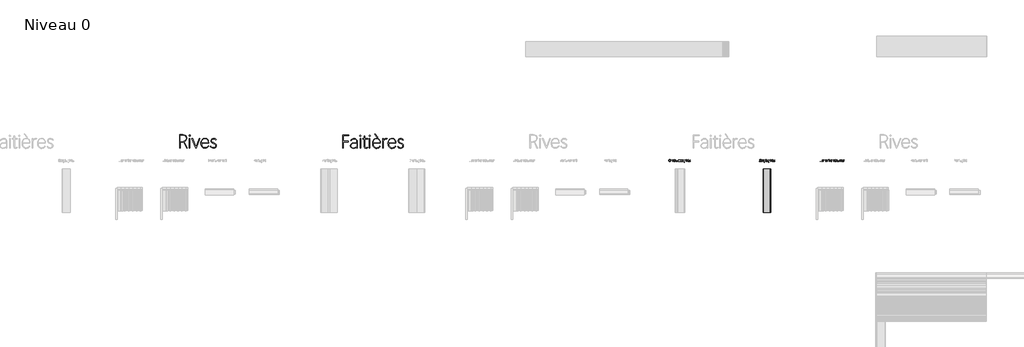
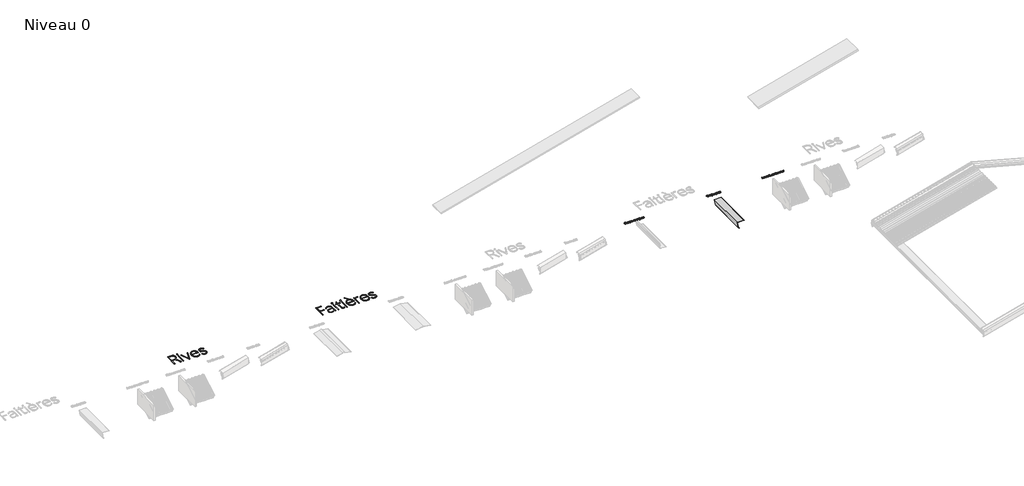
# One storey, part 20 of 26: 6 proxies.
"""IFC4 building model written with IfcOpenShell, lengths in millimetres."""

from ifc_helpers import new_model, si_unit, origin, origin_with_axes, place, context, project, spatial, polyline, outline, extrude, transform, mapped, element, save
from components import generic_models_2b05da81

model = new_model("IFC4")

# Units and contexts
model_context = context("Model", 3, world=origin())
ifc_project = project(units=[si_unit("LENGTHUNIT", "METRE", prefix="MILLI")], contexts=[model_context])

# Site, building, storey
site = spatial("IfcSite", under=ifc_project)
building = spatial("IfcBuilding", under=site)
storey = spatial("IfcBuildingStorey", under=building, Name="Niveau 0", Elevation=0.0)

# Proxies
placement = place(None, origin())
generic_models_shape = generic_models_2b05da81(model_context)
element("IfcBuildingElementProxy", 1, Name="Faitiere simple plate : Faitiere simple plate", ObjectType="Faitiere simple plate : Faitiere simple plate", at=placement, inside=storey, context=model_context, shape_type="MappedRepresentation", body=[
    mapped(generic_models_shape, transform((29964.6881645, -8404.4337097, 0.0), x_axis=(0.0, -1.0, 0.0), y_axis=(1.0, 0.0, 0.0), z_axis=(0.0, 0.0, 1.0))),
])
element("IfcBuildingElementProxy", 2, Name="0.5mm", ObjectType="0.5mm", at=placement, inside=storey, context=model_context, shape_type="SweptSolid", body=[
    extrude(outline(polyline([(29869.6233254, -8231.5532262), (29871.6912741, -8230.4076719), (29876.5859153, -8236.1056888), (29883.6080145, -8237.9356002), (29892.0434599, -8234.9006251), (29895.3908589, -8226.747849), (29892.9212223, -8219.212482), (29884.5899182, -8214.4294208), (29874.8601452, -8209.0587051), (29871.8251701, -8201.0844568), (29875.484993, -8192.0316023), (29885.0362381, -8188.4238501), (29892.7352557, -8190.5141148), (29897.5927035, -8195.9220238), (29895.5396322, -8197.0378234), (29891.4037348, -8192.3217102), (29885.0064834, -8190.5810627), (29877.3223431, -8193.3556846), (29874.1311561, -8200.8761742), (29876.7272499, -8207.6007269), (29885.2445207, -8212.2424534), (29894.855275, -8217.8512064), (29897.7265995, -8226.5395664), (29893.7394754, -8236.3139714), (29883.6080145, -8240.0928129), (29875.3139037, -8237.8984069), (29869.6233254, -8231.5532262)])), origin_with_axes(), (0.0, 0.0, 1.0), 10.0),
    extrude(outline(polyline([(29908.5126629, -8194.8359788), (29906.868718, -8194.211131), (29906.2066769, -8192.5746248), (29906.868718, -8190.93068), (29908.5126629, -8190.2983935), (29910.193801, -8190.93068), (29910.8037715, -8192.5746248), (29910.193801, -8194.211131), (29908.5126629, -8194.8359788)])), origin_with_axes(), (0.0, 0.0, 1.0), 10.0),
    extrude(outline(polyline([(29909.6284625, -8239.2596825), (29907.4563725, -8239.2596825), (29907.4563725, -8203.5540934), (29909.6284625, -8203.5540934), (29909.6284625, -8239.2596825)])), origin_with_axes(), (0.0, 0.0, 1.0), 10.0),
    extrude(outline(polyline([(29968.6021938, -8239.2596825), (29966.4747358, -8239.2596825), (29966.4747358, -8217.018076), (29963.9976605, -8207.7420615), (29957.1317733, -8204.7442797), (29949.447633, -8208.262768), (29946.3605873, -8217.2263586), (29946.3605873, -8239.2596825), (29944.2033746, -8239.2596825), (29944.2033746, -8216.839548), (29941.9197046, -8207.9131508), (29935.128204, -8204.7442797), (29927.1613945, -8208.1214334), (29924.0743487, -8216.973444), (29924.0743487, -8239.2596825), (29921.9171361, -8239.2596825), (29921.9171361, -8203.5540934), (29924.0743487, -8203.5540934), (29924.0743487, -8209.371129), (29928.8053393, -8204.3723465), (29935.306732, -8202.676331), (29942.1577419, -8205.0120716), (29945.6315981, -8211.2307951), (29950.2286927, -8204.9302463), (29957.1615279, -8202.676331), (29965.6564827, -8206.2915219), (29968.6021938, -8216.839548), (29968.6021938, -8239.2596825)])), origin_with_axes(), (0.0, 0.0, 1.0), 10.0),
    extrude(outline(polyline([(29981.3074325, -8233.1897323), (29981.2032912, -8255.6842534), (29979.0460786, -8255.6842534), (29979.0460786, -8203.5540934), (29981.2032912, -8203.5540934), (29981.2032912, -8211.6771149), (29986.4252336, -8205.1905996), (29994.8755564, -8202.676331), (30005.6021104, -8207.5784109), (30009.5594799, -8220.320843), (30005.2301772, -8234.9303798), (29993.6853701, -8240.0928129), (29986.0235458, -8238.1587601), (29981.3074325, -8233.1897323)]), holes=[polyline([(29981.2032912, -8219.7257498), (29981.2032912, -8226.0783692), (29984.7069022, -8234.5361306), (29993.7300021, -8238.0397415), (30003.593671, -8233.5616656), (30007.3278806, -8220.3654749), (30003.9060949, -8209.0140731), (29994.7714151, -8204.7442797), (29984.7961661, -8209.1554077), (29981.2032912, -8219.7257498)])]), origin_with_axes(), (0.0, 0.0, 1.0), 10.0),
    extrude(outline(polyline([(30018.0841893, -8239.2596825), (30018.0841893, -8186.4005334), (30020.2414019, -8186.4005334), (30020.2414019, -8239.2596825), (30018.0841893, -8239.2596825)])), origin_with_axes(), (0.0, 0.0, 1.0), 10.0),
    extrude(outline(polyline([(30058.2976089, -8220.4770549), (30031.0274653, -8220.7374082), (30034.6054629, -8233.7476322), (30044.4616932, -8238.0694962), (30051.2160004, -8236.3957967), (30055.991623, -8231.3746982), (30057.8810437, -8232.3863566), (30052.4061867, -8238.1661988), (30044.4616932, -8240.1374449), (30033.0879753, -8235.3543837), (30028.840498, -8220.6332669), (30033.2441873, -8207.5932882), (30044.4616932, -8202.676331), (30054.6675407, -8207.176723), (30058.2976089, -8220.4770549)]), holes=[polyline([(30056.0957643, -8218.7289688), (30052.8376293, -8208.2776453), (30044.3873065, -8204.7442797), (30035.28982, -8208.3669093), (30031.1316066, -8218.7289688), (30056.0957643, -8218.7289688)])]), origin_with_axes(), (0.0, 0.0, 1.0), 10.0),
    extrude(outline(polyline([(30086.0438271, -8233.1897323), (30085.9396858, -8255.6842534), (30083.7824731, -8255.6842534), (30083.7824731, -8203.5540934), (30085.9396858, -8203.5540934), (30085.9396858, -8211.6771149), (30091.1616282, -8205.1905996), (30099.6119509, -8202.676331), (30110.338505, -8207.5784109), (30114.2958744, -8220.320843), (30109.9665718, -8234.9303798), (30098.4217646, -8240.0928129), (30090.7599403, -8238.1587601), (30086.0438271, -8233.1897323)]), holes=[polyline([(30085.9396858, -8219.7257498), (30085.9396858, -8226.0783692), (30089.4432967, -8234.5361306), (30098.4663966, -8238.0397415), (30108.3300656, -8233.5616656), (30112.0642751, -8220.3654749), (30108.6424895, -8209.0140731), (30099.5078096, -8204.7442797), (30089.5325607, -8209.1554077), (30085.9396858, -8219.7257498)])]), origin_with_axes(), (0.0, 0.0, 1.0), 10.0),
    extrude(outline(polyline([(30122.8205838, -8239.2596825), (30122.8205838, -8186.4005334), (30124.9777965, -8186.4005334), (30124.9777965, -8239.2596825), (30122.8205838, -8239.2596825)])), origin_with_axes(), (0.0, 0.0, 1.0), 10.0),
    extrude(outline(polyline([(30159.9692738, -8239.2596825), (30157.7971838, -8239.2596825), (30157.7971838, -8232.3863566), (30152.5529254, -8237.9356002), (30145.002681, -8240.0928129), (30136.9689235, -8237.3033137), (30134.1273537, -8230.1547573), (30137.2292767, -8222.8871822), (30146.9664884, -8219.145534), (30157.8418158, -8217.6131691), (30157.8418158, -8215.5154658), (30155.1043873, -8207.4817082), (30147.6954775, -8204.7442797), (30141.4693154, -8206.4179792), (30136.9838008, -8211.364691), (30135.0051161, -8210.2488914), (30140.4204638, -8204.6178224), (30147.6954775, -8202.676331), (30156.6367521, -8206.0088527), (30159.9692738, -8215.5452204), (30159.9692738, -8239.2596825)]), holes=[polyline([(30157.7971838, -8225.3493801), (30157.7971838, -8219.6662405), (30147.2342803, -8221.094464), (30138.9922402, -8224.0699298), (30136.358953, -8230.095248), (30138.7467643, -8235.9494768), (30145.181209, -8238.1141282), (30154.0555356, -8234.4319893), (30157.7971838, -8225.3493801)])]), origin_with_axes(), (0.0, 0.0, 1.0), 10.0),
    extrude(outline(polyline([(30185.0673274, -8237.519035), (30182.129055, -8239.3861398), (30178.893236, -8239.9589169), (30173.8572602, -8238.0025482), (30172.1686834, -8232.1483193), (30172.1686834, -8205.5476555), (30165.6226587, -8205.5476555), (30165.6226587, -8203.5540934), (30172.1686834, -8203.5540934), (30172.1686834, -8193.9582164), (30174.325896, -8193.5862831), (30174.325896, -8203.5540934), (30184.055669, -8203.5540934), (30184.055669, -8205.5476555), (30174.325896, -8205.5476555), (30174.325896, -8231.999546), (30175.5160823, -8236.4850607), (30179.0420093, -8237.9653549), (30181.4967685, -8237.496719), (30183.8176318, -8235.9420382), (30185.0673274, -8237.519035)])), origin_with_axes(), (0.0, 0.0, 1.0), 10.0),
    extrude(outline(polyline([(30218.2586479, -8220.4770549), (30190.9885043, -8220.7374082), (30194.5665018, -8233.7476322), (30204.4227321, -8238.0694962), (30211.1770394, -8236.3957967), (30215.9526619, -8231.3746982), (30217.8420827, -8232.3863566), (30212.3672257, -8238.1661988), (30204.4227321, -8240.1374449), (30193.0490143, -8235.3543837), (30188.8015369, -8220.6332669), (30193.2052262, -8207.5932882), (30204.4227321, -8202.676331), (30214.6285797, -8207.176723), (30218.2586479, -8220.4770549)]), holes=[polyline([(30216.0568032, -8218.7289688), (30212.7986682, -8208.2776453), (30204.3483455, -8204.7442797), (30195.2508589, -8208.3669093), (30191.0926456, -8218.7289688), (30216.0568032, -8218.7289688)])]), origin_with_axes(), (0.0, 0.0, 1.0), 10.0),
])
element("IfcBuildingElementProxy", 3, Name="0.5mm", ObjectType="0.5mm", at=placement, inside=storey, context=model_context, shape_type="SweptSolid", body=[
    extrude(outline(polyline([(27839.600876, -8230.1250026), (27832.0729476, -8237.4818417), (27821.3761482, -8240.0928129), (27812.2526264, -8238.3317091), (27804.9664546, -8233.0483977), (27800.1908321, -8224.9235165), (27798.5989579, -8214.6377034), (27800.2336044, -8204.0097116), (27805.1375439, -8195.6319159), (27812.5855066, -8190.1923925), (27821.8522228, -8188.3792181), (27831.775401, -8190.662888), (27839.2586974, -8197.6924259), (27837.2651354, -8198.8826122), (27830.77862, -8192.7233981), (27821.8224681, -8190.6108174), (27813.5209186, -8192.2714992), (27806.8261207, -8197.2535447), (27802.407554, -8204.9135093), (27800.9346985, -8214.6079487), (27802.3647817, -8224.0383155), (27806.6550314, -8231.4714009), (27813.1843191, -8236.2972344), (27821.3315162, -8237.9058456), (27830.7265494, -8235.6519303), (27837.5775593, -8228.9794483), (27839.600876, -8230.1250026)])), origin_with_axes(), (0.0, 0.0, 1.0), 10.0),
    extrude(outline(polyline([(27863.3748474, -8240.0928129), (27851.1531218, -8234.9303798), (27846.5039565, -8221.4812746), (27851.3093337, -8207.9131508), (27863.5087433, -8202.676331), (27875.6486436, -8207.9280281), (27880.2457382, -8221.406888), (27875.5891343, -8234.8783092), (27863.3748474, -8240.0928129)]), holes=[polyline([(27863.449234, -8238.0397415), (27874.0418921, -8233.4054536), (27878.0141389, -8221.3771333), (27874.0567694, -8209.3636903), (27863.5087433, -8204.7442797), (27852.8268213, -8209.4455156), (27848.7355558, -8221.5110293), (27852.7598733, -8233.4575243), (27863.449234, -8238.0397415)])]), origin_with_axes(), (0.0, 0.0, 1.0), 10.0),
    extrude(outline(polyline([(27914.582613, -8239.2596825), (27912.455155, -8239.2596825), (27912.455155, -8217.018076), (27909.7326038, -8207.9652214), (27902.1600435, -8204.7442797), (27893.5907021, -8208.19582), (27890.2730578, -8217.018076), (27890.2730578, -8239.2596825), (27888.1158451, -8239.2596825), (27888.1158451, -8203.5540934), (27890.2730578, -8203.5540934), (27890.2730578, -8209.6537982), (27895.1751376, -8204.4764878), (27902.2790621, -8202.676331), (27911.3542326, -8206.4626112), (27914.582613, -8216.8097934), (27914.582613, -8239.2596825)])), origin_with_axes(), (0.0, 0.0, 1.0), 10.0),
    extrude(outline(polyline([(27938.9368002, -8237.519035), (27935.9985278, -8239.3861398), (27932.7627088, -8239.9589169), (27927.726733, -8238.0025482), (27926.0381561, -8232.1483193), (27926.0381561, -8205.5476555), (27919.4921315, -8205.5476555), (27919.4921315, -8203.5540934), (27926.0381561, -8203.5540934), (27926.0381561, -8193.9582164), (27928.1953688, -8193.5862831), (27928.1953688, -8203.5540934), (27937.9251418, -8203.5540934), (27937.9251418, -8205.5476555), (27928.1953688, -8205.5476555), (27928.1953688, -8231.999546), (27929.3855551, -8236.4850607), (27932.911482, -8237.9653549), (27935.3662413, -8237.496719), (27937.6871046, -8235.9420382), (27938.9368002, -8237.519035)])), origin_with_axes(), (0.0, 0.0, 1.0), 10.0),
    extrude(outline(polyline([(27961.0445107, -8205.5476555), (27959.3187406, -8204.960001), (27957.5929705, -8204.803789), (27950.2510087, -8209.0066344), (27947.3722456, -8221.1242187), (27947.3722456, -8239.2596825), (27945.2447876, -8239.2596825), (27945.2447876, -8203.5540934), (27947.3722456, -8203.5540934), (27947.3722456, -8211.4390777), (27951.3816857, -8205.071581), (27957.6971118, -8202.8251043), (27959.7501831, -8202.9961936), (27961.8776412, -8203.6582347), (27961.0445107, -8205.5476555)])), origin_with_axes(), (0.0, 0.0, 1.0), 10.0),
    extrude(outline(polyline([(27994.9796977, -8220.4770549), (27967.709554, -8220.7374082), (27971.2875516, -8233.7476322), (27981.1437819, -8238.0694962), (27987.8980892, -8236.3957967), (27992.6737117, -8231.3746982), (27994.5631325, -8232.3863566), (27989.0882755, -8238.1661988), (27981.1437819, -8240.1374449), (27969.7700641, -8235.3543837), (27965.5225867, -8220.6332669), (27969.926276, -8207.5932882), (27981.1437819, -8202.676331), (27991.3496295, -8207.176723), (27994.9796977, -8220.4770549)]), holes=[polyline([(27992.777853, -8218.7289688), (27989.519718, -8208.2776453), (27981.0693953, -8204.7442797), (27971.9719087, -8208.3669093), (27967.8136953, -8218.7289688), (27992.777853, -8218.7289688)])]), origin_with_axes(), (0.0, 0.0, 1.0), 10.0),
    extrude(outline(polyline([(28067.1496196, -8239.2596825), (28065.0221615, -8239.2596825), (28065.0221615, -8217.018076), (28062.5450863, -8207.7420615), (28055.6791991, -8204.7442797), (28047.9950588, -8208.262768), (28044.908013, -8217.2263586), (28044.908013, -8239.2596825), (28042.7508004, -8239.2596825), (28042.7508004, -8216.839548), (28040.4671304, -8207.9131508), (28033.6756298, -8204.7442797), (28025.7088203, -8208.1214334), (28022.6217745, -8216.973444), (28022.6217745, -8239.2596825), (28020.4645619, -8239.2596825), (28020.4645619, -8203.5540934), (28022.6217745, -8203.5540934), (28022.6217745, -8209.371129), (28027.3527651, -8204.3723465), (28033.8541578, -8202.676331), (28040.7051677, -8205.0120716), (28044.1790239, -8211.2307951), (28048.7761185, -8204.9302463), (28055.7089537, -8202.676331), (28064.2039085, -8206.2915219), (28067.1496196, -8216.839548), (28067.1496196, -8239.2596825)])), origin_with_axes(), (0.0, 0.0, 1.0), 10.0),
    extrude(outline(polyline([(28103.3312831, -8239.2299278), (28101.2038251, -8239.2299278), (28101.2038251, -8233.1153457), (28096.2496746, -8238.3000948), (28089.3465941, -8240.0928129), (28080.2119142, -8236.366042), (28076.8645152, -8226.0486145), (28076.8645152, -8203.5243388), (28079.0217279, -8203.5243388), (28079.0217279, -8225.8403319), (28081.8261044, -8234.7816065), (28089.525122, -8238.0397415), (28097.8861808, -8234.5733239), (28101.2038251, -8225.7659453), (28101.2038251, -8203.5243388), (28103.3312831, -8203.5243388), (28103.3312831, -8239.2299278)])), origin_with_axes(), (0.0, 0.0, 1.0), 10.0),
    extrude(outline(polyline([(28129.5748911, -8205.5476555), (28127.8491209, -8204.960001), (28126.1233508, -8204.803789), (28118.7813891, -8209.0066344), (28115.9026259, -8221.1242187), (28115.9026259, -8239.2596825), (28113.7751679, -8239.2596825), (28113.7751679, -8203.5540934), (28115.9026259, -8203.5540934), (28115.9026259, -8211.4390777), (28119.912066, -8205.071581), (28126.2274921, -8202.8251043), (28128.2805635, -8202.9961936), (28130.4080215, -8203.6582347), (28129.5748911, -8205.5476555)])), origin_with_axes(), (0.0, 0.0, 1.0), 10.0),
    extrude(outline(polyline([(28156.0267816, -8233.1897323), (28155.9226403, -8255.6842534), (28153.7654277, -8255.6842534), (28153.7654277, -8203.5540934), (28155.9226403, -8203.5540934), (28155.9226403, -8211.6771149), (28161.1445827, -8205.1905996), (28169.5949055, -8202.676331), (28180.3214595, -8207.5784109), (28184.278829, -8220.320843), (28179.9495263, -8234.9303798), (28168.4047192, -8240.0928129), (28160.7428949, -8238.1587601), (28156.0267816, -8233.1897323)]), holes=[polyline([(28155.9226403, -8219.7257498), (28155.9226403, -8226.0783692), (28159.4262513, -8234.5361306), (28168.4493512, -8238.0397415), (28178.3130201, -8233.5616656), (28182.0472297, -8220.3654749), (28178.625444, -8209.0140731), (28169.4907642, -8204.7442797), (28159.5155152, -8209.1554077), (28155.9226403, -8219.7257498)])]), origin_with_axes(), (0.0, 0.0, 1.0), 10.0),
    extrude(outline(polyline([(28192.8035384, -8239.2596825), (28192.8035384, -8186.4005334), (28194.960751, -8186.4005334), (28194.960751, -8239.2596825), (28192.8035384, -8239.2596825)])), origin_with_axes(), (0.0, 0.0, 1.0), 10.0),
    extrude(outline(polyline([(28229.9522283, -8239.2596825), (28227.7801383, -8239.2596825), (28227.7801383, -8232.3863566), (28222.5358799, -8237.9356002), (28214.9856356, -8240.0928129), (28206.951878, -8237.3033137), (28204.1103082, -8230.1547573), (28207.2122313, -8222.8871822), (28216.949443, -8219.145534), (28227.8247703, -8217.6131691), (28227.8247703, -8215.5154658), (28225.0873418, -8207.4817082), (28217.6784321, -8204.7442797), (28211.45227, -8206.4179792), (28206.9667554, -8211.364691), (28204.9880706, -8210.2488914), (28210.4034183, -8204.6178224), (28217.6784321, -8202.676331), (28226.6197067, -8206.0088527), (28229.9522283, -8215.5452204), (28229.9522283, -8239.2596825)]), holes=[polyline([(28227.7801383, -8225.3493801), (28227.7801383, -8219.6662405), (28217.2172349, -8221.094464), (28208.9751947, -8224.0699298), (28206.3419075, -8230.095248), (28208.7297188, -8235.9494768), (28215.1641635, -8238.1141282), (28224.0384901, -8234.4319893), (28227.7801383, -8225.3493801)])]), origin_with_axes(), (0.0, 0.0, 1.0), 10.0),
    extrude(outline(polyline([(28255.0502819, -8237.519035), (28252.1120095, -8239.3861398), (28248.8761905, -8239.9589169), (28243.8402147, -8238.0025482), (28242.1516379, -8232.1483193), (28242.1516379, -8205.5476555), (28235.6056132, -8205.5476555), (28235.6056132, -8203.5540934), (28242.1516379, -8203.5540934), (28242.1516379, -8193.9582164), (28244.3088506, -8193.5862831), (28244.3088506, -8203.5540934), (28254.0386236, -8203.5540934), (28254.0386236, -8205.5476555), (28244.3088506, -8205.5476555), (28244.3088506, -8231.999546), (28245.4990369, -8236.4850607), (28249.0249638, -8237.9653549), (28251.479723, -8237.496719), (28253.8005863, -8235.9420382), (28255.0502819, -8237.519035)])), origin_with_axes(), (0.0, 0.0, 1.0), 10.0),
    extrude(outline(polyline([(28288.2416024, -8220.4770549), (28260.9714588, -8220.7374082), (28264.5494564, -8233.7476322), (28274.4056867, -8238.0694962), (28281.1599939, -8236.3957967), (28285.9356165, -8231.3746982), (28287.8250372, -8232.3863566), (28282.3501802, -8238.1661988), (28274.4056867, -8240.1374449), (28263.0319688, -8235.3543837), (28258.7844915, -8220.6332669), (28263.1881808, -8207.5932882), (28274.4056867, -8202.676331), (28284.6115342, -8207.176723), (28288.2416024, -8220.4770549)]), holes=[polyline([(28286.0397578, -8218.7289688), (28282.7816228, -8208.2776453), (28274.3313, -8204.7442797), (28265.2338135, -8208.3669093), (28261.0756001, -8218.7289688), (28286.0397578, -8218.7289688)])]), origin_with_axes(), (0.0, 0.0, 1.0), 10.0),
])
element("IfcBuildingElementProxy", 4, Name="0.5mm", ObjectType="0.5mm", at=placement, inside=storey, context=model_context, shape_type="SweptSolid", body=[
    extrude(outline(polyline([(31256.8583104, -8239.2596825), (31275.5442354, -8189.2569805), (31277.5377974, -8189.2569805), (31295.9410531, -8239.2596825), (31293.4714165, -8239.2596825), (31287.5353623, -8223.1177808), (31265.3235105, -8223.1177808), (31259.327947, -8239.2596825), (31256.8583104, -8239.2596825)]), holes=[polyline([(31266.1268862, -8220.9159361), (31286.7022319, -8220.9159361), (31277.879976, -8196.8890501), (31277.1509869, -8194.7987854), (31276.5261391, -8192.8870487), (31275.7153246, -8194.8211014), (31274.9937742, -8196.8295408), (31266.1268862, -8220.9159361)])]), origin_with_axes(), (0.0, 0.0, 1.0), 10.0),
    extrude(outline(polyline([(31319.1645633, -8205.5476555), (31317.4387932, -8204.960001), (31315.713023, -8204.803789), (31308.3710613, -8209.0066344), (31305.4922982, -8221.1242187), (31305.4922982, -8239.2596825), (31303.3648402, -8239.2596825), (31303.3648402, -8203.5540934), (31305.4922982, -8203.5540934), (31305.4922982, -8211.4390777), (31309.5017383, -8205.071581), (31315.8171643, -8202.8251043), (31317.8702357, -8202.9961936), (31319.9976937, -8203.6582347), (31319.1645633, -8205.5476555)])), origin_with_axes(), (0.0, 0.0, 1.0), 10.0),
    extrude(outline(polyline([(31342.0161403, -8205.5476555), (31340.2903702, -8204.960001), (31338.5646, -8204.803789), (31331.2226383, -8209.0066344), (31328.3438752, -8221.1242187), (31328.3438752, -8239.2596825), (31326.2164172, -8239.2596825), (31326.2164172, -8203.5540934), (31328.3438752, -8203.5540934), (31328.3438752, -8211.4390777), (31332.3533153, -8205.071581), (31338.6687413, -8202.8251043), (31340.7218127, -8202.9961936), (31342.8492707, -8203.6582347), (31342.0161403, -8205.5476555)])), origin_with_axes(), (0.0, 0.0, 1.0), 10.0),
    extrude(outline(polyline([(31363.3651071, -8240.0928129), (31351.1433815, -8234.9303798), (31346.4942163, -8221.4812746), (31351.2995935, -8207.9131508), (31363.4990031, -8202.676331), (31375.6389033, -8207.9280281), (31380.2359979, -8221.406888), (31375.579394, -8234.8783092), (31363.3651071, -8240.0928129)]), holes=[polyline([(31363.4394937, -8238.0397415), (31374.0321518, -8233.4054536), (31378.0043986, -8221.3771333), (31374.0470292, -8209.3636903), (31363.4990031, -8204.7442797), (31352.817081, -8209.4455156), (31348.7258156, -8221.5110293), (31352.750133, -8233.4575243), (31363.4394937, -8238.0397415)])]), origin_with_axes(), (0.0, 0.0, 1.0), 10.0),
    extrude(outline(polyline([(31414.5728727, -8239.2596825), (31412.4454147, -8239.2596825), (31412.4454147, -8217.018076), (31409.7228636, -8207.9652214), (31402.1503032, -8204.7442797), (31393.5809618, -8208.19582), (31390.2633175, -8217.018076), (31390.2633175, -8239.2596825), (31388.1061048, -8239.2596825), (31388.1061048, -8203.5540934), (31390.2633175, -8203.5540934), (31390.2633175, -8209.6537982), (31395.1653973, -8204.4764878), (31402.2693218, -8202.676331), (31411.3444924, -8206.4626112), (31414.5728727, -8216.8097934), (31414.5728727, -8239.2596825)])), origin_with_axes(), (0.0, 0.0, 1.0), 10.0),
    extrude(outline(polyline([(31449.9734765, -8231.5532262), (31444.7589728, -8237.8314589), (31436.8442339, -8240.0928129), (31425.8573266, -8235.1237851), (31421.7139905, -8221.9275945), (31426.4375424, -8207.8387641), (31438.1683162, -8202.676331), (31445.1904153, -8204.4021012), (31449.9214059, -8209.3116197), (31450.0255472, -8186.4005334), (31452.1827599, -8186.4005334), (31452.1827599, -8239.2596825), (31450.0255472, -8239.2596825), (31449.9734765, -8231.5532262)]), holes=[polyline([(31423.9455899, -8221.7936985), (31427.5533421, -8233.7699482), (31436.9037432, -8238.0397415), (31446.4475496, -8233.9410374), (31450.0255472, -8223.6087326), (31450.0255472, -8216.1403136), (31446.6409549, -8208.0172921), (31438.1236842, -8204.7442797), (31427.9699073, -8209.3413743), (31423.9455899, -8221.7936985)])]), origin_with_axes(), (0.0, 0.0, 1.0), 10.0),
    extrude(outline(polyline([(31464.2036415, -8194.8359788), (31462.5596967, -8194.211131), (31461.8976556, -8192.5746248), (31462.5596967, -8190.93068), (31464.2036415, -8190.2983935), (31465.8847797, -8190.93068), (31466.4947501, -8192.5746248), (31465.8847797, -8194.211131), (31464.2036415, -8194.8359788)])), origin_with_axes(), (0.0, 0.0, 1.0), 10.0),
    extrude(outline(polyline([(31465.3194412, -8239.2596825), (31463.1473512, -8239.2596825), (31463.1473512, -8203.5540934), (31465.3194412, -8203.5540934), (31465.3194412, -8239.2596825)])), origin_with_axes(), (0.0, 0.0, 1.0), 10.0),
    extrude(outline(polyline([(31521.1391787, -8233.4426469), (31515.8428497, -8238.3521654), (31508.2405347, -8240.0928129), (31496.7031662, -8235.0196438), (31492.1730196, -8221.4812746), (31496.8742555, -8207.7495001), (31508.7612412, -8202.676331), (31515.790779, -8204.3202759), (31521.0647921, -8209.2074784), (31519.3687766, -8210.3827873), (31514.6377861, -8206.02373), (31508.7314865, -8204.6996477), (31498.4438137, -8209.1851624), (31494.4046189, -8221.5110293), (31498.3396724, -8233.5393496), (31508.3149213, -8238.0397415), (31514.72705, -8236.5743246), (31519.4282859, -8232.178074), (31521.1391787, -8233.4426469)])), origin_with_axes(), (0.0, 0.0, 1.0), 10.0),
    extrude(outline(polyline([(31543.3212759, -8240.0928129), (31531.0995503, -8234.9303798), (31526.4503851, -8221.4812746), (31531.2557623, -8207.9131508), (31543.4551719, -8202.676331), (31555.5950722, -8207.9280281), (31560.1921668, -8221.406888), (31555.5355629, -8234.8783092), (31543.3212759, -8240.0928129)]), holes=[polyline([(31543.3956626, -8238.0397415), (31553.9883207, -8233.4054536), (31557.9605674, -8221.3771333), (31554.003198, -8209.3636903), (31543.4551719, -8204.7442797), (31532.7732498, -8209.4455156), (31528.6819844, -8221.5110293), (31532.7063018, -8233.4575243), (31543.3956626, -8238.0397415)])]), origin_with_axes(), (0.0, 0.0, 1.0), 10.0),
    extrude(outline(polyline([(31594.5290416, -8239.2596825), (31592.4015835, -8239.2596825), (31592.4015835, -8217.018076), (31589.6790324, -8207.9652214), (31582.106472, -8204.7442797), (31573.5371307, -8208.19582), (31570.2194863, -8217.018076), (31570.2194863, -8239.2596825), (31568.0622737, -8239.2596825), (31568.0622737, -8203.5540934), (31570.2194863, -8203.5540934), (31570.2194863, -8209.6537982), (31575.1215662, -8204.4764878), (31582.2254907, -8202.676331), (31591.3006612, -8206.4626112), (31594.5290416, -8216.8097934), (31594.5290416, -8239.2596825)])), origin_with_axes(), (0.0, 0.0, 1.0), 10.0),
    extrude(outline(polyline([(31618.8832288, -8237.519035), (31615.9449563, -8239.3861398), (31612.7091373, -8239.9589169), (31607.6731615, -8238.0025482), (31605.9845847, -8232.1483193), (31605.9845847, -8205.5476555), (31599.4385601, -8205.5476555), (31599.4385601, -8203.5540934), (31605.9845847, -8203.5540934), (31605.9845847, -8193.9582164), (31608.1417974, -8193.5862831), (31608.1417974, -8203.5540934), (31617.8715704, -8203.5540934), (31617.8715704, -8205.5476555), (31608.1417974, -8205.5476555), (31608.1417974, -8231.999546), (31609.3319837, -8236.4850607), (31612.8579106, -8237.9653549), (31615.3126699, -8237.496719), (31617.6335331, -8235.9420382), (31618.8832288, -8237.519035)])), origin_with_axes(), (0.0, 0.0, 1.0), 10.0),
    extrude(outline(polyline([(31640.9909393, -8205.5476555), (31639.2651692, -8204.960001), (31637.539399, -8204.803789), (31630.1974373, -8209.0066344), (31627.3186742, -8221.1242187), (31627.3186742, -8239.2596825), (31625.1912162, -8239.2596825), (31625.1912162, -8203.5540934), (31627.3186742, -8203.5540934), (31627.3186742, -8211.4390777), (31631.3281143, -8205.071581), (31637.6435403, -8202.8251043), (31639.6966117, -8202.9961936), (31641.8240697, -8203.6582347), (31640.9909393, -8205.5476555)])), origin_with_axes(), (0.0, 0.0, 1.0), 10.0),
    extrude(outline(polyline([(31674.9261262, -8220.4770549), (31647.6559826, -8220.7374082), (31651.2339802, -8233.7476322), (31661.0902105, -8238.0694962), (31667.8445178, -8236.3957967), (31672.6201403, -8231.3746982), (31674.509561, -8232.3863566), (31669.0347041, -8238.1661988), (31661.0902105, -8240.1374449), (31649.7164926, -8235.3543837), (31645.4690153, -8220.6332669), (31649.8727046, -8207.5932882), (31661.0902105, -8202.676331), (31671.296058, -8207.176723), (31674.9261262, -8220.4770549)]), holes=[polyline([(31672.7242816, -8218.7289688), (31669.4661466, -8208.2776453), (31661.0158238, -8204.7442797), (31651.9183373, -8208.3669093), (31647.7601239, -8218.7289688), (31672.7242816, -8218.7289688)])]), origin_with_axes(), (0.0, 0.0, 1.0), 10.0),
    extrude(outline(polyline([(31747.0960481, -8239.2596825), (31744.9685901, -8239.2596825), (31744.9685901, -8217.018076), (31742.4915149, -8207.7420615), (31735.6256276, -8204.7442797), (31727.9414873, -8208.262768), (31724.8544416, -8217.2263586), (31724.8544416, -8239.2596825), (31722.6972289, -8239.2596825), (31722.6972289, -8216.839548), (31720.413559, -8207.9131508), (31713.6220584, -8204.7442797), (31705.6552488, -8208.1214334), (31702.5682031, -8216.973444), (31702.5682031, -8239.2596825), (31700.4109904, -8239.2596825), (31700.4109904, -8203.5540934), (31702.5682031, -8203.5540934), (31702.5682031, -8209.371129), (31707.2991937, -8204.3723465), (31713.8005863, -8202.676331), (31720.6515962, -8205.0120716), (31724.1254525, -8211.2307951), (31728.7225471, -8204.9302463), (31735.6553823, -8202.676331), (31744.150337, -8206.2915219), (31747.0960481, -8216.839548), (31747.0960481, -8239.2596825)])), origin_with_axes(), (0.0, 0.0, 1.0), 10.0),
    extrude(outline(polyline([(31783.2777117, -8239.2299278), (31781.1502537, -8239.2299278), (31781.1502537, -8233.1153457), (31776.1961032, -8238.3000948), (31769.2930227, -8240.0928129), (31760.1583428, -8236.366042), (31756.8109438, -8226.0486145), (31756.8109438, -8203.5243388), (31758.9681565, -8203.5243388), (31758.9681565, -8225.8403319), (31761.772533, -8234.7816065), (31769.4715506, -8238.0397415), (31777.8326094, -8234.5733239), (31781.1502537, -8225.7659453), (31781.1502537, -8203.5243388), (31783.2777117, -8203.5243388), (31783.2777117, -8239.2299278)])), origin_with_axes(), (0.0, 0.0, 1.0), 10.0),
    extrude(outline(polyline([(31809.5213197, -8205.5476555), (31807.7955495, -8204.960001), (31806.0697794, -8204.803789), (31798.7278176, -8209.0066344), (31795.8490545, -8221.1242187), (31795.8490545, -8239.2596825), (31793.7215965, -8239.2596825), (31793.7215965, -8203.5540934), (31795.8490545, -8203.5540934), (31795.8490545, -8211.4390777), (31799.8584946, -8205.071581), (31806.1739207, -8202.8251043), (31808.2269921, -8202.9961936), (31810.3544501, -8203.6582347), (31809.5213197, -8205.5476555)])), origin_with_axes(), (0.0, 0.0, 1.0), 10.0),
])
element("IfcBuildingElementProxy", 5, Name="3 mm", ObjectType="3 mm", at=placement, inside=storey, context=model_context, shape_type="SweptSolid", body=[
    extrude(outline(polyline([(20494.5792567, -7642.2780058), (20372.6875168, -7642.2780058), (20372.6875168, -7774.3574429), (20486.1045351, -7774.3574429), (20486.1045351, -7787.7006215), (20372.6875168, -7787.7006215), (20372.6875168, -7932.2216711), (20358.7132419, -7932.2216711), (20358.7132419, -7629.205297), (20494.5792567, -7629.205297), (20494.5792567, -7642.2780058)])), origin_with_axes(), (0.0, 0.0, 1.0), 10.0),
    extrude(outline(polyline([(20689.2273828, -7932.2216711), (20676.0645174, -7932.2216711), (20676.0645174, -7890.5693162), (20662.3719819, -7909.2542741), (20644.2843115, -7924.1977326), (20622.5452984, -7934.0022642), (20598.5298307, -7937.2704414), (20570.6263592, -7933.0443502), (20549.8452601, -7920.3660766), (20536.9303253, -7901.0838311), (20532.6253471, -7877.0458244), (20537.3247605, -7852.5119562), (20551.4230008, -7833.0043192), (20575.5737033, -7818.8384615), (20610.4305036, -7810.3299312), (20676.3349872, -7801.0438001), (20676.3349872, -7788.3317178), (20672.187783, -7760.1126981), (20659.7461705, -7739.6471471), (20640.227264, -7727.2055346), (20614.8481776, -7723.0583304), (20594.7319834, -7725.5939852), (20577.1176353, -7733.2009493), (20562.1403681, -7745.7665272), (20549.9354167, -7763.1780229), (20537.9445872, -7756.416277), (20552.6851934, -7736.7057876), (20570.7615941, -7722.2919992), (20591.655389, -7713.4679208), (20614.8481776, -7710.5265613), (20645.38873, -7715.5753316), (20669.0323016, -7730.7216425), (20677.8676496, -7741.9066972), (20684.1786125, -7755.2667802), (20689.2273828, -7788.512031), (20689.2273828, -7932.2216711)]), holes=[polyline([(20676.0645174, -7847.9252386), (20676.0645174, -7813.4854126), (20612.0533226, -7822.1404474), (20582.5721103, -7828.9472717), (20562.1065593, -7840.1717699), (20550.1382691, -7856.0167945), (20546.148839, -7876.6851979), (20549.766373, -7896.7337746), (20560.6189752, -7912.1618249), (20577.6022271, -7922.0001652), (20599.6117101, -7925.279612), (20628.6083305, -7919.7011716), (20653.3901294, -7902.9658504), (20670.3959204, -7878.0488167), (20676.0645174, -7847.9252386)])]), origin_with_axes(), (0.0, 0.0, 1.0), 10.0),
    extrude(outline(polyline([(20757.9267214, -7663.0140266), (20747.9644157, -7659.2274489), (20743.9524465, -7649.3102215), (20747.9644157, -7639.3479159), (20757.9267214, -7635.5162598), (20768.1144186, -7639.3479159), (20771.8108397, -7649.3102215), (20768.1144186, -7659.2274489), (20757.9267214, -7663.0140266)])), origin_with_axes(), (0.0, 0.0, 1.0), 10.0),
    extrude(outline(polyline([(20764.6884673, -7932.2216711), (20751.5256019, -7932.2216711), (20751.5256019, -7715.8458014), (20764.6884673, -7715.8458014), (20764.6884673, -7932.2216711)])), origin_with_axes(), (0.0, 0.0, 1.0), 10.0),
    extrude(outline(polyline([(20927.8719357, -7921.6733475), (20910.0660048, -7932.9880023), (20890.4569416, -7936.4590319), (20872.6848194, -7933.4951333), (20859.9389283, -7924.6034374), (20852.2643467, -7909.8064834), (20849.7061528, -7889.1268104), (20849.7061528, -7727.9267875), (20810.0372433, -7727.9267875), (20810.0372433, -7715.8458014), (20849.7061528, -7715.8458014), (20849.7061528, -7657.6947865), (20862.7788616, -7655.4408712), (20862.7788616, -7715.8458014), (20921.7412861, -7715.8458014), (20921.7412861, -7727.9267875), (20862.7788616, -7727.9267875), (20862.7788616, -7888.2252443), (20864.5819938, -7904.1266168), (20869.9913906, -7915.4074629), (20878.9394343, -7922.1354001), (20891.3585077, -7924.3780458), (20906.2343487, -7921.5381126), (20920.2987803, -7912.1167466), (20927.8719357, -7921.6733475)])), origin_with_axes(), (0.0, 0.0, 1.0), 10.0),
    extrude(outline(polyline([(20971.4175795, -7663.0140266), (20961.4552738, -7659.2274489), (20957.4433045, -7649.3102215), (20961.4552738, -7639.3479159), (20971.4175795, -7635.5162598), (20981.6052767, -7639.3479159), (20985.3016978, -7649.3102215), (20981.6052767, -7659.2274489), (20971.4175795, -7663.0140266)])), origin_with_axes(), (0.0, 0.0, 1.0), 10.0),
    extrude(outline(polyline([(20978.1793254, -7932.2216711), (20965.01646, -7932.2216711), (20965.01646, -7715.8458014), (20978.1793254, -7715.8458014), (20978.1793254, -7932.2216711)])), origin_with_axes(), (0.0, 0.0, 1.0), 10.0),
    extrude(outline(polyline([(21215.5616857, -7819.9766887), (21050.3046153, -7819.9766887), (21051.4231207, -7844.7162266), (21055.4097335, -7866.1030655), (21062.2644534, -7884.1372054), (21071.9872806, -7898.8186462), (21084.0879884, -7910.2093707), (21098.0763503, -7918.3713615), (21113.9523662, -7923.3046187), (21131.7160362, -7925.0091421), (21153.4437798, -7922.4734874), (21172.6471383, -7914.8665232), (21188.8527893, -7902.1882496), (21201.5874108, -7884.4386666), (21213.0373006, -7890.5693162), (21198.522086, -7910.8658236), (21179.8596672, -7925.5951601), (21157.4557491, -7934.5544735), (21131.7160362, -7937.5409112), (21111.2138591, -7935.6279006), (21092.892345, -7930.1593386), (21076.751494, -7921.1352252), (21062.7913061, -7908.5555604), (21051.5301817, -7892.211857), (21043.4865215, -7871.8956279), (21038.6603253, -7847.606873), (21037.0515933, -7819.3455924), (21038.7194906, -7795.9471341), (21043.7231826, -7774.9772696), (21052.0626692, -7756.4359988), (21063.7379505, -7740.3233217), (21077.9939648, -7727.287239), (21094.0756506, -7717.9757514), (21111.9830077, -7712.3888588), (21131.7160362, -7710.5265613), (21150.5249595, -7712.2310848), (21167.1025066, -7717.3446551), (21181.4486775, -7725.8672724), (21193.5634723, -7737.7989366), (21203.1876907, -7752.9649692), (21210.0621324, -7771.1906919), (21215.5616857, -7816.8212073), (21215.5616857, -7819.9766887)]), holes=[polyline([(21202.2185071, -7807.8055461), (21196.8767278, -7771.0103786), (21190.8080609, -7756.4585379), (21182.474209, -7744.4705259), (21160.2055257, -7728.4113793), (21131.2652532, -7723.0583304), (21100.8035878, -7728.5466142), (21076.1344847, -7745.0114655), (21066.3947532, -7757.1685212), (21058.9483805, -7771.6865532), (21050.9357116, -7807.8055461), (21202.2185071, -7807.8055461)])]), origin_with_axes(), (0.0, 0.0, 1.0), 10.0),
    extrude(outline(polyline([(21150.6489248, -7674.8245428), (21137.125433, -7674.8245428), (21086.0066338, -7607.2070836), (21101.1529446, -7607.2070836), (21150.6489248, -7674.8245428)])), origin_with_axes(), (0.0, 0.0, 1.0), 10.0),
    extrude(outline(polyline([(21361.8858676, -7727.9267875), (21351.4277006, -7724.3656013), (21340.9695335, -7723.4189569), (21328.0461466, -7725.0107846), (21316.3229696, -7729.7862676), (21296.4772453, -7748.8881999), (21283.393267, -7779.9809616), (21279.0319408, -7822.3207606), (21279.0319408, -7932.2216711), (21266.1395453, -7932.2216711), (21266.1395453, -7715.8458014), (21279.0319408, -7715.8458014), (21279.0319408, -7763.628806), (21289.2759859, -7741.4953577), (21303.3291479, -7725.0417759), (21321.0336526, -7714.8315396), (21341.6006298, -7711.4281274), (21354.0422423, -7712.4649285), (21366.9346379, -7716.4768977), (21361.8858676, -7727.9267875)])), origin_with_axes(), (0.0, 0.0, 1.0), 10.0),
    extrude(outline(polyline([(21567.5331004, -7819.9766887), (21402.2760299, -7819.9766887), (21403.3945354, -7844.7162266), (21407.3811481, -7866.1030655), (21414.235868, -7884.1372054), (21423.9586952, -7898.8186462), (21436.059403, -7910.2093707), (21450.0477649, -7918.3713615), (21465.9237809, -7923.3046187), (21483.6874509, -7925.0091421), (21505.4151945, -7922.4734874), (21524.6185529, -7914.8665232), (21540.824204, -7902.1882496), (21553.5588255, -7884.4386666), (21565.0087152, -7890.5693162), (21550.4935007, -7910.8658236), (21531.8310819, -7925.5951601), (21509.4271637, -7934.5544735), (21483.6874509, -7937.5409112), (21463.1852738, -7935.6279006), (21444.8637597, -7930.1593386), (21428.7229087, -7921.1352252), (21414.7627207, -7908.5555604), (21403.5015964, -7892.211857), (21395.4579361, -7871.8956279), (21390.63174, -7847.606873), (21389.0230079, -7819.3455924), (21390.6909052, -7795.9471341), (21395.6945972, -7774.9772696), (21404.0340839, -7756.4359988), (21415.7093652, -7740.3233217), (21429.9653795, -7727.287239), (21446.0470652, -7717.9757514), (21463.9544224, -7712.3888588), (21483.6874509, -7710.5265613), (21502.4963742, -7712.2310848), (21519.0739212, -7717.3446551), (21533.4200922, -7725.8672724), (21545.534887, -7737.7989366), (21555.1591053, -7752.9649692), (21562.033547, -7771.1906919), (21567.5331004, -7816.8212073), (21567.5331004, -7819.9766887)]), holes=[polyline([(21554.1899218, -7807.8055461), (21548.8481425, -7771.0103786), (21542.7794755, -7756.4585379), (21534.4456237, -7744.4705259), (21512.1769404, -7728.4113793), (21483.2366678, -7723.0583304), (21452.7750024, -7728.5466142), (21428.1058994, -7745.0114655), (21418.3661678, -7757.1685212), (21410.9197951, -7771.6865532), (21402.9071262, -7807.8055461), (21554.1899218, -7807.8055461)])]), origin_with_axes(), (0.0, 0.0, 1.0), 10.0),
    extrude(outline(polyline([(21606.93154, -7895.25746), (21619.1928393, -7889.3071236), (21628.7607098, -7904.7915218), (21641.9573839, -7916.0836375), (21658.6025485, -7922.9806183), (21678.5158902, -7925.279612), (21698.2376492, -7922.0565131), (21714.6686918, -7912.3872164), (21725.7579551, -7897.1732881), (21729.4543762, -7877.3162942), (21726.5468254, -7860.2766945), (21717.8241732, -7846.8433592), (21701.2353565, -7835.3709303), (21674.7293125, -7824.2140495), (21646.7356844, -7812.2457592), (21629.1100666, -7799.6012943), (21619.7788573, -7784.9057665), (21616.6684541, -7766.7842874), (21621.2551718, -7743.6365772), (21635.0153247, -7725.7630288), (21655.6048411, -7714.3356782), (21680.6796489, -7710.5265613), (21698.9589021, -7712.6227026), (21715.7505711, -7718.9111263), (21730.2207074, -7729.0988235), (21741.5353622, -7742.8927852), (21730.2657857, -7749.203748), (21720.8669589, -7737.7087799), (21708.7183553, -7729.3692933), (21694.834237, -7724.2979839), (21680.2288658, -7722.6075474), (21660.0563238, -7725.5376373), (21643.8957511, -7734.327907), (21633.27981, -7747.9190163), (21629.7411629, -7765.251625), (21632.1979306, -7779.6654134), (21639.5682337, -7791.1716511), (21654.489153, -7801.3480787), (21679.5977696, -7811.772437), (21709.4396082, -7824.3718236), (21728.8232799, -7838.0080112), (21739.439221, -7854.6419062), (21742.977868, -7876.2344148), (21738.3009938, -7901.6698491), (21724.270371, -7920.9971729), (21703.4780023, -7933.2021243), (21678.5158902, -7937.2704414), (21654.5004226, -7934.4192385), (21634.3842285, -7925.8656299), (21618.4377776, -7912.5111817), (21606.93154, -7895.25746)])), origin_with_axes(), (0.0, 0.0, 1.0), 10.0),
])
element("IfcBuildingElementProxy", 6, Name="3 mm", ObjectType="3 mm", at=placement, inside=storey, context=model_context, shape_type="SweptSolid", body=[
    extrude(outline(polyline([(16804.4475334, -7929.2596825), (16789.0307527, -7929.2596825), (16749.2716866, -7838.6522871), (16736.8638828, -7815.7186988), (16723.8024436, -7801.0119014), (16708.2166193, -7793.0668499), (16688.23566, -7790.4184994), (16643.8786068, -7790.4184994), (16643.8786068, -7929.2596825), (16629.9043318, -7929.2596825), (16629.9043318, -7626.2433083), (16707.4390185, -7626.2433083), (16742.340897, -7631.573818), (16756.9603552, -7638.2369552), (16769.6921593, -7647.5653472), (16780.0066392, -7659.1701936), (16787.3741249, -7672.6626941), (16791.7946163, -7688.0428487), (16793.2681134, -7705.3106574), (16788.0841082, -7734.5439389), (16772.5320926, -7758.9538417), (16749.0688342, -7776.7597727), (16720.1511008, -7786.1811387), (16732.7842961, -7792.2103621), (16743.2762719, -7801.7331543), (16761.7132991, -7833.3330469), (16804.4475334, -7929.2596825)]), holes=[polyline([(16643.8786068, -7639.1357039), (16643.8786068, -7777.5261039), (16698.1528874, -7777.5261039), (16731.0938596, -7772.4886032), (16756.8899203, -7757.376101), (16773.5576241, -7734.487591), (16779.1135253, -7706.1220669), (16774.2225291, -7678.308752), (16759.5495404, -7657.0768698), (16736.379291, -7643.6209954), (16705.9965127, -7639.1357039), (16643.8786068, -7639.1357039)])]), origin_with_axes(), (0.0, 0.0, 1.0), 10.0),
    extrude(outline(polyline([(16861.7871388, -7660.052038), (16851.8248332, -7656.2654602), (16847.8128639, -7646.3482329), (16851.8248332, -7636.3859272), (16861.7871388, -7632.5542712), (16871.974836, -7636.3859272), (16875.6712571, -7646.3482329), (16871.974836, -7656.2654602), (16861.7871388, -7660.052038)])), origin_with_axes(), (0.0, 0.0, 1.0), 10.0),
    extrude(outline(polyline([(16868.5488848, -7929.2596825), (16855.3860194, -7929.2596825), (16855.3860194, -7712.8838128), (16868.5488848, -7712.8838128), (16868.5488848, -7929.2596825)])), origin_with_axes(), (0.0, 0.0, 1.0), 10.0),
    extrude(outline(polyline([(17094.3010421, -7712.8838128), (17008.742417, -7929.2596825), (16998.1940933, -7929.2596825), (16913.8976608, -7712.8838128), (16928.4128754, -7712.8838128), (16997.562997, -7891.6643751), (17000.8086351, -7899.9587835), (17003.4231768, -7907.0811558), (17007.1646763, -7899.6883136), (17010.1849228, -7892.0250016), (17080.3267672, -7712.8838128), (17094.3010421, -7712.8838128)])), origin_with_axes(), (0.0, 0.0, 1.0), 10.0),
    extrude(outline(polyline([(17296.3420104, -7817.0147001), (17131.08494, -7817.0147001), (17132.2034454, -7841.754238), (17136.1900581, -7863.1410769), (17143.0447781, -7881.1752168), (17152.7676052, -7895.8566576), (17164.868313, -7907.2473821), (17178.8566749, -7915.4093729), (17194.7326909, -7920.34263), (17212.4963609, -7922.0471535), (17234.2241045, -7919.5114988), (17253.4274629, -7911.9045346), (17269.633114, -7899.226261), (17282.3677355, -7881.4766779), (17293.8176253, -7887.6073276), (17279.3024107, -7907.9038349), (17260.6399919, -7922.6331715), (17238.2360737, -7931.5924848), (17212.4963609, -7934.5789226), (17191.9941838, -7932.665912), (17173.6726697, -7927.19735), (17157.5318187, -7918.1732366), (17143.5716308, -7905.5935717), (17132.3105064, -7889.2498683), (17124.2668461, -7868.9336392), (17119.44065, -7844.6448844), (17117.8319179, -7816.3836038), (17119.4998153, -7792.9851455), (17124.5035073, -7772.0152809), (17132.8429939, -7753.4740101), (17144.5182752, -7737.3613331), (17158.7742895, -7724.3252504), (17174.8559753, -7715.0137628), (17192.7633324, -7709.4268702), (17212.4963609, -7707.5645727), (17231.3052842, -7709.2690961), (17247.8828313, -7714.3826665), (17262.2290022, -7722.9052838), (17274.343797, -7734.8369479), (17283.9680154, -7750.0029806), (17290.8424571, -7768.2287032), (17296.3420104, -7813.8592187), (17296.3420104, -7817.0147001)]), holes=[polyline([(17282.9988318, -7804.8435574), (17277.6570525, -7768.04839), (17271.5883855, -7753.4965493), (17263.2545337, -7741.5085372), (17240.9858504, -7725.4493907), (17212.0455779, -7720.0963418), (17181.5839125, -7725.5846256), (17156.9148094, -7742.0494769), (17147.1750779, -7754.2065326), (17139.7287052, -7768.7245646), (17131.7160362, -7804.8435574), (17282.9988318, -7804.8435574)])]), origin_with_axes(), (0.0, 0.0, 1.0), 10.0),
    extrude(outline(polyline([(17335.74045, -7892.2954714), (17348.0017493, -7886.345135), (17357.5696198, -7901.8295332), (17370.7662939, -7913.1216489), (17387.4114585, -7920.0186297), (17407.3248002, -7922.3176233), (17427.0465592, -7919.0945244), (17443.4776018, -7909.4252278), (17454.5668651, -7894.2112994), (17458.2632862, -7874.3543056), (17455.3557355, -7857.3147058), (17446.6330832, -7843.8813706), (17430.0442665, -7832.4089416), (17403.5382225, -7821.2520609), (17375.5445944, -7809.2837706), (17357.9189767, -7796.6393057), (17348.5877673, -7781.9437779), (17345.4773641, -7763.8222988), (17350.0640818, -7740.6745886), (17363.8242348, -7722.8010402), (17384.4137511, -7711.3736896), (17409.4885589, -7707.5645727), (17427.7678121, -7709.6607139), (17444.5594811, -7715.9491376), (17459.0296174, -7726.1368348), (17470.3442723, -7739.9307965), (17459.0746957, -7746.2417594), (17449.6758689, -7734.7467913), (17437.5272654, -7726.4073047), (17423.6431471, -7721.3359952), (17409.0377759, -7719.6455587), (17388.8652338, -7722.5756486), (17372.7046611, -7731.3659183), (17362.08872, -7744.9570277), (17358.5500729, -7762.2896364), (17361.0068406, -7776.7034248), (17368.3771437, -7788.2096624), (17383.298063, -7798.3860901), (17408.4066796, -7808.8104484), (17438.2485183, -7821.4098349), (17457.6321899, -7835.0460226), (17468.248131, -7851.6799175), (17471.7867781, -7873.2724262), (17467.1099038, -7898.7078605), (17453.079281, -7918.0351842), (17432.2869123, -7930.2401356), (17407.3248002, -7934.3084528), (17383.3093326, -7931.4572499), (17363.1931385, -7922.9036413), (17347.2466877, -7909.5491931), (17335.74045, -7892.2954714)])), origin_with_axes(), (0.0, 0.0, 1.0), 10.0),
])

save(model, "model.ifc")
